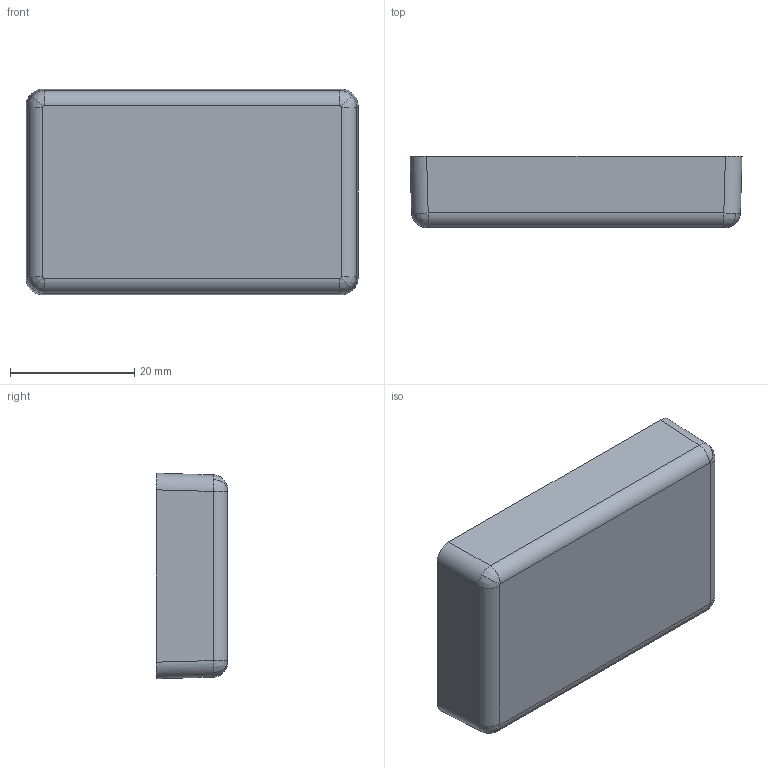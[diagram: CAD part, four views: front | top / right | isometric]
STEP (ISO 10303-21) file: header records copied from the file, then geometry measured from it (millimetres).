
FILE_DESCRIPTION (( 'STEP AP214' ), '1' );
FILE_NAME ('P-1304TX .STEP', '2010-07-09T19:01:44', ( 'steve began' ), ( 'polycase' ), 'SwSTEP 2.0', 'SolidWorks 2010', '' );
FILE_SCHEMA (( 'AUTOMOTIVE_DESIGN' ));
Length unit declared in the file: inch
Products named in the file (1): P-1304TX 
Bounding box: 53.34 x 11.43 x 33.02 mm (x, y, z)
Volume: 5390.9 mm3; surface area: 6644.5 mm2
Topology: 1 solids, 1 shells, 52 faces, 128 edges, 80 vertices
Faces by surface type: bspline 20, plane 16, cylinder 16
Entity records: 1876 total; most frequent: CARTESIAN_POINT 801, ORIENTED_EDGE 256, DIRECTION 170, EDGE_CURVE 128, VERTEX_POINT 80, AXIS2_PLACEMENT_3D 57, LINE 56, VECTOR 56
